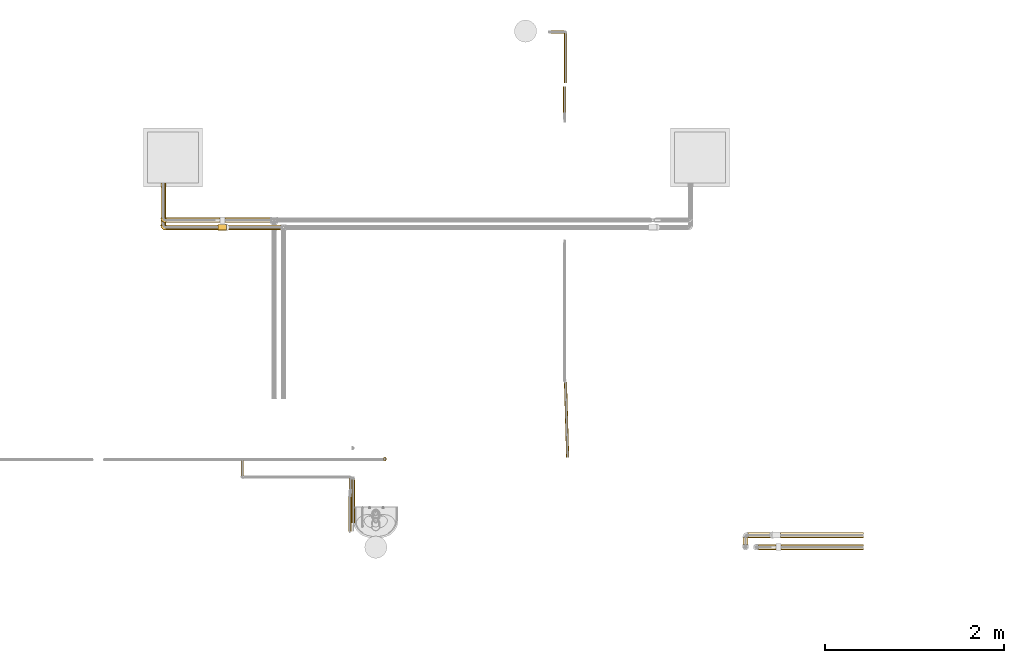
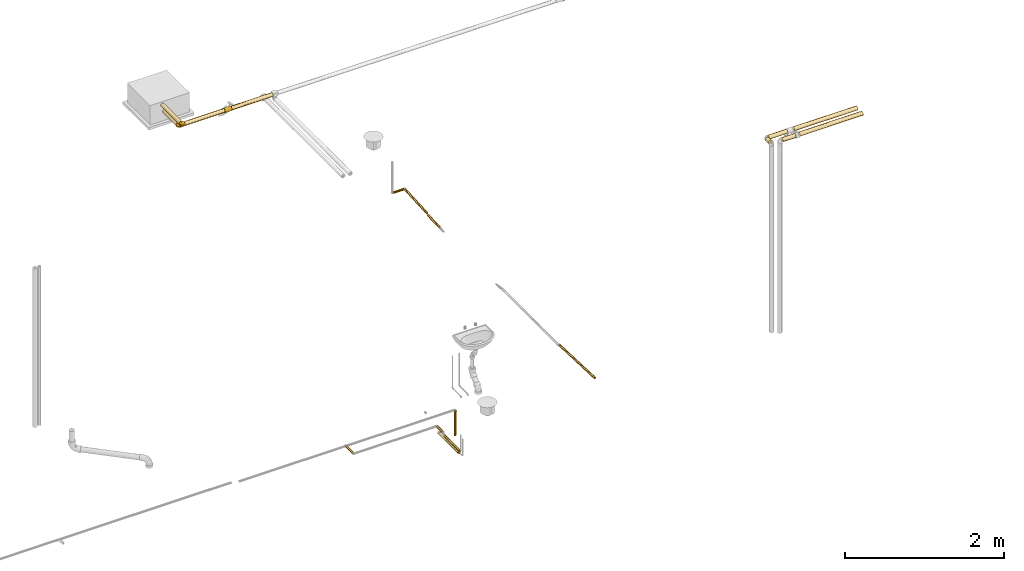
# One storey, part 4 of 108: 23 coverings.
"""IFC2X3 building model written with IfcOpenShell, lengths in millimetres."""

from ifc_helpers import new_model, entity, si_unit, converted_unit, derived_unit, direction, frame, origin_with_axes, origin_2d_with_axis, place, context, subcontext, project, spatial, hollow_circle, extrude, open_shell, surface_model, source, transform, mapped, element, save


model = new_model("IFC2X3")

# Units and contexts
model_context = context("Model", 3, precision=0.01, world=frame((0.0, 4.29681676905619e-09, 0.0)), true_north=direction((4.01073788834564e-13, 1.0)))
plan_context = context("Plan", 3, precision=0.01, world=frame((0.0, 4.29681676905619e-09, 0.0)), true_north=direction((4.01073788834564e-13, 1.0)))
body_context = subcontext(model_context, "Body", "Model", "MODEL_VIEW")
ifc_project = project(units=[converted_unit("PLANEANGLEUNIT", "DEGREE", entity("IfcPositiveLengthMeasure", 0.0174532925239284), si_unit("PLANEANGLEUNIT", "RADIAN"), dimensions=[0, 0, 0, 0, 0, 0, 0]), si_unit("AREAUNIT", "SQUARE_METRE"), si_unit("LENGTHUNIT", "METRE", prefix="MILLI"), si_unit("MASSUNIT", "GRAM", prefix="KILO"), si_unit("POWERUNIT", "WATT"), si_unit("PRESSUREUNIT", "PASCAL", prefix="KILO"), si_unit("FORCEUNIT", "NEWTON", prefix="KILO"), si_unit("ELECTRICVOLTAGEUNIT", "VOLT"), si_unit("ELECTRICCURRENTUNIT", "AMPERE"), si_unit("THERMODYNAMICTEMPERATUREUNIT", "DEGREE_CELSIUS"), si_unit("TIMEUNIT", "SECOND"), si_unit("VOLUMEUNIT", "CUBIC_METRE"), derived_unit("LINEARVELOCITYUNIT", [(si_unit("LENGTHUNIT", "METRE"), 1), (si_unit("TIMEUNIT", "SECOND"), -1)]), derived_unit("VOLUMETRICFLOWRATEUNIT", [(si_unit("VOLUMEUNIT", "CUBIC_METRE"), 1), (si_unit("TIMEUNIT", "SECOND"), -1)]), derived_unit("THERMALTRANSMITTANCEUNIT", [(si_unit("POWERUNIT", "WATT"), 1), (si_unit("THERMODYNAMICTEMPERATUREUNIT", "KELVIN"), -1), (si_unit("AREAUNIT", "SQUARE_METRE"), -1)]), derived_unit("SOUNDPRESSUREUNIT", [(si_unit("PRESSUREUNIT", "PASCAL"), 1)])], contexts=[model_context, plan_context])

# Site, building, storey
site_placement = place(None, frame((0.0, -4.29681676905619e-09, 0.0), z_axis=(0.0, 0.0, 1.0), x_axis=(1.0, 0.0, 0.0)))
site = spatial("IfcSite", under=ifc_project, at=site_placement, CompositionType="ELEMENT")
building_placement = place(site_placement, frame((0.0, 4.29681676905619e-09, 0.0), z_axis=(0.0, 0.0, 1.0), x_axis=(1.0, 0.0, 0.0)))
building = spatial("IfcBuilding", under=site, at=building_placement, Name="mc-building", CompositionType="ELEMENT")
storey_placement = place(building_placement, frame((0.0, 0.0, 210200.0), z_axis=(0.0, 0.0, 1.0), x_axis=(1.0, 0.0, 0.0)))
storey = spatial("IfcBuildingStorey", under=building, at=storey_placement, Name="Nivå F - 0,7 m", CompositionType="ELEMENT", Elevation=210200.0)

# Coverings
shared_shape_1 = source(origin_with_axes(), body_context, "Body", "SweptSolid", [
    extrude(hollow_circle(Radius=28.0, WallThickness=18.0, at=origin_2d_with_axis()), frame((0.0, 0.0, 0.0), z_axis=(1.0, 0.0, 0.0), x_axis=(0.0, 1.0, 0.0)), (0.0, 0.0, 1.0), 343.2),
])
covering_1_placement = place(storey_placement, frame((337032.18344, 464010.27358, 2880.0), z_axis=(0.0, 0.0, 1.0), x_axis=(0.0, 1.0, 0.0)))
element("IfcCovering", 1, at=covering_1_placement, inside=storey, Name="BI10T - Cellegummi 18-32 mm kalde rør", PredefinedType="INSULATION", context=body_context, shape_type="MappedRepresentation", body=[
    mapped(shared_shape_1, transform((0.0, 0.0, 0.0), scale=1.0)),
])
shared_shape_2 = source(origin_with_axes(), body_context, "Body", "SweptSolid", [
    extrude(hollow_circle(Radius=28.0, WallThickness=18.0, at=origin_2d_with_axis()), frame((0.0, 0.0, 0.0), z_axis=(1.0, 0.0, 0.0), x_axis=(0.0, 1.0, 0.0)), (0.0, 0.0, 1.0), 507.4),
])
covering_2_placement = place(storey_placement, frame((337723.87202, 463983.47358, 2880.0), z_axis=(0.0, 0.0, 1.0), x_axis=(1.0, 0.0, 0.0)))
element("IfcCovering", 2, at=covering_2_placement, inside=storey, Name="BI10T - Cellegummi 18-32 mm kalde rør", PredefinedType="INSULATION", context=body_context, shape_type="MappedRepresentation", body=[
    mapped(shared_shape_2, transform((0.0, 0.0, 0.0), scale=1.0)),
])
shared_shape_3 = source(origin_with_axes(), body_context, "Body", "SurfaceModel", [
    surface_model("IfcShellBasedSurfaceModel", [(-7.87022, 26.8, 30.39769), (0.0, 26.8, 31.4), (-15.23148, 26.8, 27.45837), (6.99065, 26.8, 30.61194), (13.6289, 26.8, 28.28804), (-26.63504, 26.8, -16.62933), (-21.62222, 26.8, 22.76927), (24.54569, 26.8, -19.58237), (19.57301, 26.8, -24.55315), (13.61941, 26.8, -28.29261), (-15.22502, 26.8, -27.46195), (-21.61679, 26.8, -22.77443), (-7.86298, 26.8, -30.39957), (0.0, 26.8, -31.4), (6.98317, 26.8, -30.61365), (-26.8, 26.63504, -16.62933), (-26.8, 21.62083, -22.77059), (-26.8, 15.22825, -27.46016), (-26.8, 7.86482, -30.39909), (-26.8, 0.0, -31.4), (-26.8, 26.63504, 16.62933), (-26.8, 0.0, 31.4), (-26.8, 21.62083, 22.77059), (-26.8, 7.86482, 30.39909), (-26.8, 15.22825, 27.46016), (-26.8, -8.12692, -30.33007), (-26.8, -15.7, -27.1932), (-26.8, -30.33007, -8.12692), (-26.8, -27.1932, -15.7), (-26.8, -22.20315, -22.20315), (-26.8, -31.4, 0.0), (-26.8, -22.20315, 22.20315), (-26.8, -15.7, 27.1932), (-26.8, -8.12692, 30.33007), (-26.8, -30.33007, 8.12692), (-26.8, -27.1932, 15.7), (-26.68336, 26.68336, 16.62933), (-26.68336, 26.68336, -16.62933), (-26.63504, 26.8, 16.62933), (-20.98338, 20.98209, -25.31794), (-15.53682, 19.99394, -28.28261), (-20.29306, 14.65966, -28.57075), (-13.68199, 13.68199, -30.29728), (-13.4, 3.59052, -31.4), (-24.81877, 23.57843, -21.35728), (-23.9708, 25.32448, -20.70189), (-3.59052, 13.4, -31.4), (21.01064, -4.28263, -8.50513), (27.85021, 12.71364, -10.37505), (26.96979, 4.52782, 0.0), (-17.53236, -4.99583, -30.75762), (-11.01672, -2.51353, -30.72144), (-3.12198, -11.94459, -25.2931), (-6.82273, -20.89661, -19.11511), (-14.9163, -17.55059, -24.9113), (-11.94566, -9.06155, -29.00982), (-20.05963, -11.42655, -29.00982), (13.04245, 9.33765, -26.59004), (15.90764, 18.52889, -26.59004), (20.64838, 14.57113, -22.20739), (-8.49526, 8.49526, -31.4), (-2.1777, 4.82876, -30.78183), (-1.37231, 21.67848, -31.4), (18.8999, -3.45798, -14.19353), (-9.95855, -28.34424, -5.80541), (-12.28416, -27.08902, -12.01626), (30.61194, 26.8, -6.99065), (29.14235, 15.45001, 0.0), (-17.70901, -24.10591, -19.11511), (11.19472, -10.994, -16.37704), (15.69471, -2.3705, -19.33199), (3.92402, 8.13201, -30.03703), (9.19037, 17.52431, -29.63944), (28.28804, 26.8, -13.6289), (25.61026, 16.65004, -16.71073), (4.60724, -3.31916, -26.58119), (-2.12413, -1.85447, -29.40457), (18.41545, 5.80905, -21.32233), (22.09401, 5.3703, -16.71073), (14.33363, -12.18809, -9.66691), (-2.58099, -23.25739, -12.49127), (0.37251, -23.7646, -7.02892), (6.44521, -18.38099, -11.30514), (9.81792, -17.81907, -5.46272), (14.35361, -14.35361, 0.0), (20.6617, -4.9129, 0.0), (-15.45001, -29.14235, 0.0), (2.68782, -15.28972, -19.52493), (8.11745, -7.57536, -22.20739), (-21.67848, 1.37231, -31.4), (12.3209, 1.00206, -24.15586), (8.23919, 3.39793, -27.4004), (31.4, 26.8, 0.0), (-4.52782, -26.96979, 0.0), (4.9129, -20.6617, 0.0), (-16.70169, -10.67968, 29.00982), (-9.96828, -28.3124, 5.97969), (8.84436, -16.89683, 10.50422), (21.02303, -4.26539, 8.5016), (20.65743, 14.57231, 22.19892), (25.61706, 16.6537, 16.7012), (24.55315, 26.8, 19.57301), (-9.05385, -15.54703, 24.9113), (-13.76902, -23.2425, 19.11511), (0.34475, -17.81223, 18.43111), (13.05424, 9.34082, 26.58405), (15.91783, 18.53136, 26.58405), (9.1991, 17.52373, 29.63644), (15.01213, -7.31228, 15.75383), (-14.20524, -3.60644, 30.79947), (-13.4, 3.59052, 31.4), (-20.1, 1.79526, 31.4), (-1.37231, 21.67848, 31.4), (-16.865, -28.61257, 10.76741), (-18.72321, -18.39914, 24.9113), (1.94012, -23.19265, 5.77128), (27.85447, 12.71812, 10.36645), (0.58014, -8.0947, 26.03466), (-9.97946, -7.68007, 29.193), (22.1034, 5.37679, 16.7012), (19.58237, 26.8, 24.54569), (28.29261, 26.8, 13.61941), (30.61365, 26.8, 6.98317), (-8.90885, -0.30109, 30.88309), (-2.9944, 3.369, 30.69802), (-3.59052, 13.4, 31.4), (-8.49526, 8.49526, 31.4), (16.45957, 3.77155, 22.19916), (3.92635, 8.12106, 30.03469), (-20.62637, -5.33624, 30.83614), (8.13659, -7.56798, 22.19892), (6.32115, -0.14196, 27.07957), (-6.5724, -25.21519, 12.01626), (1.04359, -13.09156, 22.55297), (-3.99576, -3.53267, 29.35415), (-25.32462, 23.97157, 20.70103), (-23.57831, 24.81837, 21.35761), (-13.6818, 13.68181, 30.29735), (-19.99475, 15.53567, 28.28289), (-20.98316, 20.98231, 25.31794), (-14.66031, 20.29357, 28.57039)], [open_shell([[[0, 1, 2]], [[1, 3, 4]], [[2, 5, 6]], [[7, 8, 9]], [[5, 10, 11]], [[10, 5, 12]], [[5, 13, 12]], [[13, 5, 14]], [[5, 9, 14]], [[15, 16, 17]], [[17, 18, 19]], [[15, 17, 20]], [[21, 17, 19]], [[22, 20, 21]], [[22, 23, 24]], [[23, 22, 21]], [[20, 17, 21]], [[19, 25, 21]], [[25, 26, 27]], [[28, 27, 26]], [[28, 26, 29]], [[25, 27, 30]], [[25, 31, 32]], [[33, 21, 32]], [[31, 34, 35]], [[34, 31, 30]], [[30, 31, 25]], [[32, 21, 25]], [[15, 20, 36]], [[37, 15, 36]], [[38, 5, 36]], [[37, 36, 5]], [[39, 40, 41]], [[18, 41, 42]], [[41, 40, 42]], [[16, 39, 17]], [[19, 18, 43]], [[43, 18, 42]], [[12, 42, 40]], [[15, 37, 44]], [[39, 41, 17]], [[5, 11, 45]], [[39, 45, 11]], [[5, 45, 37]], [[40, 39, 10]], [[46, 43, 42]], [[42, 12, 46]], [[12, 13, 46]], [[10, 39, 11]], [[15, 44, 16]], [[41, 18, 17]], [[45, 44, 37]], [[39, 44, 45]], [[12, 40, 10]], [[44, 39, 16]], [[47, 48, 49]], [[50, 43, 51]], [[52, 53, 54]], [[55, 56, 50]], [[57, 58, 59]], [[60, 61, 51]], [[62, 13, 14]], [[48, 47, 63]], [[64, 27, 65]], [[48, 66, 67]], [[68, 28, 29]], [[26, 56, 54]], [[26, 54, 29]], [[28, 68, 65]], [[56, 26, 25]], [[69, 70, 63]], [[71, 46, 72]], [[62, 14, 72]], [[7, 73, 74]], [[59, 8, 7]], [[72, 46, 62]], [[72, 14, 9]], [[58, 72, 9]], [[75, 52, 76]], [[72, 57, 71]], [[77, 78, 70]], [[77, 59, 78]], [[69, 63, 79]], [[64, 80, 81]], [[48, 73, 66]], [[49, 48, 67]], [[78, 74, 48]], [[28, 65, 27]], [[74, 59, 7]], [[82, 83, 81]], [[8, 58, 9]], [[80, 82, 81]], [[84, 47, 85]], [[27, 64, 86]], [[69, 87, 88]], [[51, 61, 76]], [[52, 54, 55]], [[68, 54, 53]], [[25, 19, 89]], [[57, 90, 91]], [[71, 76, 61]], [[66, 92, 67]], [[48, 74, 73]], [[59, 74, 78]], [[59, 58, 8]], [[72, 58, 57]], [[76, 52, 55]], [[52, 88, 87]], [[51, 55, 50]], [[90, 75, 91]], [[86, 64, 93]], [[86, 30, 27]], [[83, 84, 94]], [[94, 93, 81]], [[64, 81, 93]], [[79, 83, 82]], [[94, 81, 83]], [[80, 64, 65]], [[65, 53, 80]], [[87, 80, 53]], [[69, 79, 82]], [[79, 47, 84]], [[82, 80, 87]], [[70, 69, 88]], [[82, 87, 69]], [[52, 87, 53]], [[90, 70, 88]], [[63, 70, 78]], [[75, 90, 88]], [[77, 57, 59]], [[52, 75, 88]], [[91, 76, 71]], [[48, 63, 78]], [[63, 47, 79]], [[70, 90, 77]], [[57, 77, 90]], [[76, 91, 75]], [[71, 61, 46]], [[71, 57, 91]], [[54, 68, 29]], [[65, 68, 53]], [[50, 25, 89]], [[54, 56, 55]], [[25, 50, 56]], [[43, 50, 89]], [[60, 51, 43]], [[76, 55, 51]], [[47, 49, 85]], [[84, 83, 79]], [[46, 61, 60]], [[32, 95, 33]], [[93, 96, 86]], [[97, 84, 98]], [[96, 34, 86]], [[99, 100, 101]], [[102, 103, 104]], [[105, 106, 107]], [[108, 104, 97]], [[109, 110, 111]], [[3, 112, 107]], [[113, 103, 35]], [[3, 1, 112]], [[31, 114, 32]], [[32, 114, 95]], [[4, 3, 107]], [[84, 97, 115]], [[98, 49, 116]], [[102, 117, 118]], [[119, 100, 99]], [[120, 99, 101]], [[34, 96, 113]], [[116, 121, 100]], [[116, 67, 122]], [[120, 4, 106]], [[109, 123, 110]], [[124, 125, 126]], [[127, 119, 99]], [[105, 107, 128]], [[107, 125, 128]], [[121, 116, 122]], [[35, 103, 31]], [[106, 99, 120]], [[98, 116, 119]], [[127, 99, 105]], [[98, 108, 97]], [[121, 101, 100]], [[98, 84, 85]], [[125, 107, 112]], [[95, 109, 129]], [[130, 131, 117]], [[131, 105, 128]], [[104, 103, 132]], [[114, 103, 102]], [[126, 123, 124]], [[131, 130, 127]], [[97, 104, 132]], [[133, 130, 117]], [[96, 115, 132]], [[98, 119, 108]], [[67, 116, 49]], [[67, 92, 122]], [[33, 129, 21]], [[116, 100, 119]], [[107, 106, 4]], [[99, 106, 105]], [[124, 131, 128]], [[123, 126, 110]], [[117, 131, 134]], [[34, 30, 86]], [[115, 96, 93]], [[96, 132, 113]], [[115, 93, 94]], [[132, 115, 97]], [[103, 113, 132]], [[35, 34, 113]], [[129, 109, 111]], [[118, 109, 95]], [[127, 108, 119]], [[84, 115, 94]], [[104, 108, 130]], [[21, 129, 111]], [[95, 129, 33]], [[131, 127, 105]], [[108, 127, 130]], [[118, 117, 134]], [[133, 102, 104]], [[103, 114, 31]], [[95, 114, 102]], [[102, 118, 95]], [[123, 118, 134]], [[118, 123, 109]], [[123, 134, 124]], [[131, 124, 134]], [[125, 124, 128]], [[102, 133, 117]], [[104, 130, 133]], [[85, 49, 98]], [[23, 21, 110]], [[135, 136, 36]], [[23, 137, 138]], [[23, 110, 137]], [[139, 22, 24]], [[139, 135, 22]], [[22, 135, 20]], [[137, 110, 125]], [[20, 135, 36]], [[125, 1, 0]], [[139, 140, 2]], [[0, 140, 137]], [[140, 139, 138]], [[135, 139, 136]], [[6, 136, 139]], [[38, 36, 136]], [[6, 139, 2]], [[23, 138, 24]], [[140, 0, 2]], [[140, 138, 137]], [[125, 0, 137]], [[38, 136, 6]], [[138, 139, 24]], [[4, 120, 121]], [[1, 4, 5]], [[121, 120, 101]], [[4, 121, 5]], [[2, 1, 5]], [[6, 5, 38]], [[92, 121, 122]], [[5, 92, 66]], [[73, 5, 66]], [[73, 7, 5]], [[9, 5, 7]], [[92, 5, 121]]])]),
])
for number, where, z_axis, x_axis in (
    (3, (337032.18344, 463983.47358, 2880.0), (0.0, 0.0, 1.0), (0.0, -1.0, 0.0)),
    (4, (337032.18344, 463903.47358, 2948.0), (0.0, 0.0, 1.0), (0.0, -1.0, 0.0)),
):
    element("IfcCovering", number, at=place(storey_placement, frame(where, z_axis=z_axis, x_axis=x_axis)), inside=storey, Name="BI10T - Cellegummi 18-32 mm kalde rør", PredefinedType="INSULATION", context=body_context, shape_type="MappedRepresentation", body=[
        mapped(shared_shape_3, transform((0.0, 0.0, 0.0), scale=1.0)),
    ])
shared_shape_4 = source(origin_with_axes(), body_context, "Body", "SweptSolid", [
    extrude(hollow_circle(Radius=28.0, WallThickness=18.0, at=origin_2d_with_axis()), frame((0.0, 0.0, 0.0), z_axis=(1.0, 0.0, 0.0), x_axis=(0.0, 1.0, 0.0)), (0.0, 0.0, 1.0), 468.2),
])
covering_3_placement = place(storey_placement, frame((337032.18344, 464398.47358, 2948.0), z_axis=(0.0, 0.0, 1.0), x_axis=(0.0, -1.0, 0.0)))
element("IfcCovering", 5, at=covering_3_placement, inside=storey, Name="BI10T - Cellegummi 18-32 mm kalde rør", PredefinedType="INSULATION", context=body_context, shape_type="MappedRepresentation", body=[
    mapped(shared_shape_4, transform((0.0, 0.0, 0.0), scale=1.0)),
])
shared_shape_5 = source(origin_with_axes(), body_context, "Body", "SweptSolid", [
    extrude(hollow_circle(Radius=28.0, WallThickness=18.0, at=origin_2d_with_axis()), frame((0.0, 0.0, 0.0), z_axis=(1.0, 0.0, 0.0), x_axis=(0.0, 1.0, 0.0)), (0.0, 0.0, 1.0), 603.8),
])
covering_4_placement = place(storey_placement, frame((337739.56154, 463903.47358, 2948.0), z_axis=(0.0, 0.0, 1.0), x_axis=(1.0, 0.0, 0.0)))
element("IfcCovering", 6, at=covering_4_placement, inside=storey, Name="BI10T - Cellegummi 18-32 mm kalde rør", PredefinedType="INSULATION", context=body_context, shape_type="MappedRepresentation", body=[
    mapped(shared_shape_5, transform((0.0, 0.0, 0.0), scale=1.0)),
])
shared_shape_6 = source(origin_with_axes(), body_context, "Body", "SweptSolid", [
    extrude(hollow_circle(Radius=30.0, WallThickness=20.0, at=origin_2d_with_axis()), frame((0.0, 0.0, 0.0), z_axis=(1.0, 0.0, 0.0), x_axis=(0.0, 1.0, 0.0)), (0.0, 0.0, 1.0), 921.2),
])
covering_5_placement = place(storey_placement, frame((343947.74418, 460323.91341, 2545.47687000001), z_axis=(0.0, 0.0, 1.0), x_axis=(1.0, 0.0, 0.0)))
element("IfcCovering", 7, at=covering_5_placement, inside=storey, Name="BI10T - Cellegummi 18-32 mm kalde rør", PredefinedType="INSULATION", context=body_context, shape_type="MappedRepresentation", body=[
    mapped(shared_shape_6, transform((0.0, 0.0, 0.0), scale=1.0)),
])
shared_shape_7 = source(origin_with_axes(), body_context, "Body", "SweptSolid", [
    extrude(hollow_circle(Radius=30.0, WallThickness=20.0, at=origin_2d_with_axis()), frame((0.0, 0.0, 0.0), z_axis=(1.0, 0.0, 0.0), x_axis=(0.0, 1.0, 0.0)), (0.0, 0.0, 1.0), 81.4),
])
covering_6_placement = place(storey_placement, frame((343548.98104, 460350.70882, 2545.48146000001), z_axis=(0.0, -0.000173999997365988, 0.999999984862), x_axis=(0.0, 0.999999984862, 0.000173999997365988)))
element("IfcCovering", 8, at=covering_6_placement, inside=storey, Name="BI10T - Cellegummi 18-32 mm kalde rør", PredefinedType="INSULATION", context=body_context, shape_type="MappedRepresentation", body=[
    mapped(shared_shape_7, transform((0.0, 0.0, 0.0), scale=1.0)),
])
shared_shape_8 = source(origin_with_axes(), body_context, "Body", "SweptSolid", [
    extrude(hollow_circle(Radius=30.0, WallThickness=20.0, at=origin_2d_with_axis()), frame((0.0, 0.0, 0.0), z_axis=(1.0, 0.0, 0.0), x_axis=(0.0, 1.0, 0.0)), (0.0, 0.0, 1.0), 926.0),
])
covering_7_placement = place(storey_placement, frame((343942.99418, 460458.91341, 2545.5), z_axis=(0.0, 0.0, 1.0), x_axis=(1.0, 0.0, 0.0)))
element("IfcCovering", 9, at=covering_7_placement, inside=storey, Name="BI10T - Cellegummi 18-32 mm kalde rør", PredefinedType="INSULATION", context=body_context, shape_type="MappedRepresentation", body=[
    mapped(shared_shape_8, transform((0.0, 0.0, 0.0), scale=1.0)),
])
shared_shape_9 = source(origin_with_axes(), body_context, "Body", "SweptSolid", [
    extrude(hollow_circle(Radius=30.0, WallThickness=20.0, at=origin_2d_with_axis()), frame((0.0, 0.0, 0.0), z_axis=(1.0, 0.0, 0.0), x_axis=(0.0, 1.0, 0.0)), (0.0, 0.0, 1.0), 194.0),
])
covering_8_placement = place(storey_placement, frame((343695.78104, 460323.91341, 2545.47687000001), z_axis=(0.0, 0.0, 1.0), x_axis=(1.0, 0.0, 0.0)))
element("IfcCovering", 10, at=covering_8_placement, inside=storey, Name="BI10T - Cellegummi 18-32 mm kalde rør", PredefinedType="INSULATION", context=body_context, shape_type="MappedRepresentation", body=[
    mapped(shared_shape_9, transform((0.0, 0.0, 0.0), scale=1.0)),
])
shared_shape_10 = source(origin_with_axes(), body_context, "Body", "SweptSolid", [
    extrude(hollow_circle(Radius=30.0, WallThickness=20.0, at=origin_2d_with_axis()), frame((0.0, 0.0, 0.0), z_axis=(1.0, 0.0, 0.0), x_axis=(0.0, 1.0, 0.0)), (0.0, 0.0, 1.0), 270.2),
])
covering_9_placement = place(storey_placement, frame((343575.78104, 460458.91341, 2545.5), z_axis=(0.0, 0.0, 1.0), x_axis=(1.0, 0.0, 0.0)))
element("IfcCovering", 11, at=covering_9_placement, inside=storey, Name="BI10T - Cellegummi 18-32 mm kalde rør", PredefinedType="INSULATION", context=body_context, shape_type="MappedRepresentation", body=[
    mapped(shared_shape_10, transform((0.0, 0.0, 0.0), scale=1.0)),
])
shared_shape_11 = source(origin_with_axes(), body_context, "Body", "SweptSolid", [
    extrude(hollow_circle(Radius=28.0, WallThickness=18.0, at=origin_2d_with_axis()), frame((0.0, 0.0, 0.0), z_axis=(1.0, 0.0, 0.0), x_axis=(0.0, 1.0, 0.0)), (0.0, 0.0, 1.0), 606.9),
])
covering_10_placement = place(storey_placement, frame((337058.98344, 463983.47358, 2880.0), z_axis=(0.0, 0.0, 1.0), x_axis=(1.0, 0.0, 0.0)))
element("IfcCovering", 12, at=covering_10_placement, inside=storey, Name="BI10T - Cellegummi 18-32 mm kalde rør", PredefinedType="INSULATION", context=body_context, shape_type="MappedRepresentation", body=[
    mapped(shared_shape_11, transform((0.0, 0.0, 0.0), scale=1.0)),
])
shared_shape_12 = source(origin_with_axes(), body_context, "Body", "SweptSolid", [
    extrude(hollow_circle(Radius=28.0, WallThickness=18.0, at=origin_2d_with_axis()), frame((0.0, 0.0, 0.0), z_axis=(1.0, 0.0, 0.0), x_axis=(0.0, 1.0, 0.0)), (0.0, 0.0, 1.0), 583.6),
])
covering_11_placement = place(storey_placement, frame((337058.98344, 463903.47358, 2948.0), z_axis=(0.0, 0.0, 1.0), x_axis=(1.0, 0.0, 0.0)))
element("IfcCovering", 13, at=covering_11_placement, inside=storey, Name="BI10T - Cellegummi 18-32 mm kalde rør", PredefinedType="INSULATION", context=body_context, shape_type="MappedRepresentation", body=[
    mapped(shared_shape_12, transform((0.0, 0.0, 0.0), scale=1.0)),
])
shared_shape_13 = source(origin_with_axes(), body_context, "Body", "SurfaceModel", [
    surface_model("IfcShellBasedSurfaceModel", [(48.5, 31.73066, -8.50221), (48.5, 8.50221, -31.73066), (48.5, 16.425, -28.44894), (48.5, 23.22846, -23.22846), (48.5, -23.22846, -23.22846), (48.5, -28.44894, 16.425), (48.5, 28.44894, -16.425), (48.5, -8.50221, -31.73066), (48.5, -16.425, -28.44894), (48.5, 0.0, -32.85), (48.5, -31.73066, -8.50221), (48.5, -28.44894, -16.425), (48.5, 32.85, 0.0), (48.5, 31.73066, 8.50221), (48.5, 28.44894, 16.425), (48.5, 23.22846, 23.22846), (48.5, -8.50221, 31.73066), (48.5, 8.50221, 31.73066), (48.5, 0.0, 32.85), (48.5, 16.425, 28.44894), (48.5, -32.85, 0.0), (48.5, -31.73066, 8.50221), (48.5, -23.22846, 23.22846), (48.5, -16.425, 28.44894), (-48.5, 23.22846, 23.22846), (-48.5, 0.0, 32.85), (-48.5, 8.50221, 31.73066), (-48.5, 16.425, 28.44894), (-48.5, 28.44894, 16.425), (-48.5, 31.73066, 8.50221), (-48.5, -8.50221, 31.73066), (-48.5, -23.22846, 23.22846), (-48.5, -16.425, 28.44894), (-48.5, -28.44894, 16.425), (-48.5, -32.85, 0.0), (-48.5, -31.73066, 8.50221), (-48.5, -31.73066, -8.50221), (-48.5, 31.73066, -8.50221), (-48.5, -23.22846, -23.22846), (-48.5, 23.22846, -23.22846), (-48.5, 28.44894, -16.425), (-48.5, 16.425, -28.44894), (-48.5, 8.50221, -31.73066), (-48.5, 0.0, -32.85), (-48.5, -28.44894, -16.425), (-48.5, -8.50221, -31.73066), (-48.5, -16.425, -28.44894), (-48.5, 32.85, 0.0)], [open_shell([[[0, 1, 2]], [[0, 2, 3]], [[4, 1, 5]], [[0, 3, 6]], [[1, 0, 5]], [[7, 4, 8]], [[4, 7, 9]], [[4, 10, 11]], [[4, 9, 1]], [[4, 5, 10]], [[0, 12, 13]], [[13, 14, 15]], [[16, 13, 15]], [[17, 18, 15]], [[17, 15, 19]], [[16, 15, 18]], [[20, 5, 21]], [[10, 5, 20]], [[22, 16, 23]], [[22, 5, 13]], [[16, 22, 13]], [[5, 0, 13]], [[24, 25, 26]], [[24, 26, 27]], [[24, 28, 29]], [[25, 24, 30]], [[30, 24, 29]], [[30, 31, 32]], [[30, 29, 31]], [[33, 34, 35]], [[31, 29, 33]], [[33, 36, 34]], [[33, 29, 37]], [[33, 37, 38]], [[39, 37, 40]], [[41, 42, 37]], [[41, 37, 39]], [[43, 37, 42]], [[36, 38, 44]], [[33, 38, 36]], [[38, 45, 46]], [[45, 38, 43]], [[37, 43, 38]], [[37, 29, 47]], [[13, 29, 28]], [[14, 28, 24]], [[47, 29, 12]], [[12, 29, 13]], [[28, 14, 13]], [[24, 15, 14]], [[19, 27, 26]], [[17, 26, 25]], [[15, 27, 19]], [[19, 26, 17]], [[25, 18, 17]], [[27, 15, 24]], [[16, 30, 32]], [[23, 32, 31]], [[25, 30, 18]], [[18, 30, 16]], [[32, 23, 16]], [[31, 22, 23]], [[5, 33, 35]], [[21, 35, 34]], [[22, 33, 5]], [[5, 35, 21]], [[34, 20, 21]], [[33, 22, 31]], [[10, 36, 44]], [[11, 44, 38]], [[34, 36, 20]], [[20, 36, 10]], [[44, 11, 10]], [[38, 4, 11]], [[8, 46, 45]], [[7, 45, 43]], [[4, 46, 8]], [[8, 45, 7]], [[43, 9, 7]], [[46, 4, 38]], [[1, 42, 41]], [[2, 41, 39]], [[43, 42, 9]], [[9, 42, 1]], [[41, 2, 1]], [[39, 3, 2]], [[6, 40, 37]], [[0, 37, 47]], [[3, 40, 6]], [[6, 37, 0]], [[47, 12, 0]], [[40, 3, 39]]])]),
])
covering_12_placement = place(storey_placement, frame((337691.06154, 463903.47358, 2948.0), z_axis=(0.0, 0.0, -1.0), x_axis=(1.0, 0.0, 0.0)))
element("IfcCovering", 14, at=covering_12_placement, inside=storey, Name="BI10T - Cellegummi 18-32 mm kalde rør", PredefinedType="INSULATION", context=body_context, shape_type="MappedRepresentation", body=[
    mapped(shared_shape_13, transform((0.0, 0.0, 0.0), scale=1.0)),
])
shared_shape_14 = source(origin_with_axes(), body_context, "Body", "SweptSolid", [
    extrude(hollow_circle(Radius=16.0, WallThickness=10.0, at=origin_2d_with_axis()), frame((0.0, 0.0, 0.0), z_axis=(1.0, 0.0, 0.0), x_axis=(0.0, 1.0, 0.0)), (0.0, 0.0, 1.0), 391.2),
])
covering_13_placement = place(storey_placement, frame((339511.94555, 461303.55425, -747.831479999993), z_axis=(1.0, 0.0, 0.0), x_axis=(0.0, 0.0301099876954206, -0.999546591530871)))
element("IfcCovering", 15, at=covering_13_placement, inside=storey, Name="BI10T - Cellegummi 18-32 mm kalde rør", PredefinedType="INSULATION", context=body_context, shape_type="MappedRepresentation", body=[
    mapped(shared_shape_14, transform((0.0, 0.0, 0.0), scale=1.0)),
])
shared_shape_15 = source(origin_with_axes(), body_context, "Body", "SweptSolid", [
    extrude(hollow_circle(Radius=16.0, WallThickness=10.0, at=origin_2d_with_axis()), frame((0.0, 0.0, 0.0), z_axis=(1.0, 0.0, 0.0), x_axis=(0.0, 1.0, 0.0)), (0.0, 0.0, 1.0), 175.2),
])
covering_14_placement = place(storey_placement, frame((337914.44674, 461294.19294, -735.809999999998), z_axis=(0.0, 0.0, 1.0), x_axis=(0.0, -1.0, 0.0)))
element("IfcCovering", 16, at=covering_14_placement, inside=storey, Name="BI10T - Cellegummi 18-32 mm kalde rør", PredefinedType="INSULATION", context=body_context, shape_type="MappedRepresentation", body=[
    mapped(shared_shape_15, transform((0.0, 0.0, 0.0), scale=1.0)),
])
shared_shape_16 = source(origin_with_axes(), body_context, "Body", "SweptSolid", [
    extrude(hollow_circle(Radius=16.0, WallThickness=10.0, at=origin_2d_with_axis()), frame((0.0, 0.0, 0.0), z_axis=(1.0, 0.0, 0.0), x_axis=(0.0, 1.0, 0.0)), (0.0, 0.0, 1.0), 387.4),
])
covering_15_placement = place(storey_placement, frame((339119.44674, 460500.75941, -750.773129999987), z_axis=(0.0, 0.0, 1.0), x_axis=(0.0, 1.0, 0.0)))
element("IfcCovering", 17, at=covering_15_placement, inside=storey, Name="BI10T - Cellegummi 18-32 mm kalde rør", PredefinedType="INSULATION", context=body_context, shape_type="MappedRepresentation", body=[
    mapped(shared_shape_16, transform((0.0, 0.0, 0.0), scale=1.0)),
])
shared_shape_17 = source(origin_with_axes(), body_context, "Body", "SweptSolid", [
    extrude(hollow_circle(Radius=16.0, WallThickness=10.0, at=origin_2d_with_axis()), frame((0.0, 0.0, 0.0), z_axis=(1.0, 0.0, 0.0), x_axis=(0.0, 1.0, 0.0)), (0.0, 0.0, 1.0), 125.7),
])
covering_16_placement = place(storey_placement, frame((339126.94674, 461095.00941, -735.809999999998), z_axis=(0.0, 0.0, 1.0), x_axis=(0.0, -1.0, 0.0)))
element("IfcCovering", 18, at=covering_16_placement, inside=storey, Name="BI10T - Cellegummi 18-32 mm kalde rør", PredefinedType="INSULATION", context=body_context, shape_type="MappedRepresentation", body=[
    mapped(shared_shape_17, transform((0.0, 0.0, 0.0), scale=1.0)),
])
shared_shape_18 = source(origin_with_axes(), body_context, "Body", "SweptSolid", [
    extrude(hollow_circle(Radius=16.0, WallThickness=10.0, at=origin_2d_with_axis()), frame((0.0, 0.0, 0.0), z_axis=(1.0, 0.0, 0.0), x_axis=(0.0, 1.0, 0.0)), (0.0, 0.0, 1.0), 558.0),
])
covering_17_placement = place(storey_placement, frame((341534.44567, 466078.77772, -948.735719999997), z_axis=(0.0, -0.0552160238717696, 0.998474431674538), x_axis=(0.0, -0.998474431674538, -0.0552160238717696)))
element("IfcCovering", 19, at=covering_17_placement, inside=storey, Name="BI10T - Cellegummi 18-32 mm kalde rør", PredefinedType="INSULATION", context=body_context, shape_type="MappedRepresentation", body=[
    mapped(shared_shape_18, transform((0.0, 0.0, 0.0), scale=1.0)),
])
shared_shape_19 = source(origin_with_axes(), body_context, "Body", "SweptSolid", [
    extrude(hollow_circle(Radius=16.0, WallThickness=10.0, at=origin_2d_with_axis()), frame((0.0, 0.0, 0.0), z_axis=(1.0, 0.0, 0.0), x_axis=(0.0, 1.0, 0.0)), (0.0, 0.0, 1.0), 156.0),
])
covering_18_placement = place(storey_placement, frame((341366.44567, 466090.75941, -948.073130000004), z_axis=(0.0, 0.0, 1.0), x_axis=(1.0, 0.0, 0.0)))
element("IfcCovering", 20, at=covering_18_placement, inside=storey, Name="BI10T - Cellegummi 18-32 mm kalde rør", PredefinedType="INSULATION", context=body_context, shape_type="MappedRepresentation", body=[
    mapped(shared_shape_19, transform((0.0, 0.0, 0.0), scale=1.0)),
])
shared_shape_20 = source(origin_with_axes(), body_context, "Body", "SweptSolid", [
    extrude(hollow_circle(Radius=16.0, WallThickness=10.0, at=origin_2d_with_axis()), frame((0.0, 0.0, 0.0), z_axis=(1.0, 0.0, 0.0), x_axis=(0.0, 1.0, 0.0)), (0.0, 0.0, 1.0), 846.8),
])
covering_19_placement = place(storey_placement, frame((341557.8554, 461327.68812, -981.678400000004), z_axis=(0.0, 0.0, 1.0), x_axis=(-0.0286059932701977, 0.999590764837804, 0.0)))
element("IfcCovering", 21, at=covering_19_placement, inside=storey, Name="BI10T - Cellegummi 18-32 mm kalde rør", PredefinedType="INSULATION", context=body_context, shape_type="MappedRepresentation", body=[
    mapped(shared_shape_20, transform((0.0, 0.0, 0.0), scale=1.0)),
])
shared_shape_21 = source(origin_with_axes(), body_context, "Body", "SweptSolid", [
    extrude(hollow_circle(Radius=16.0, WallThickness=10.0, at=origin_2d_with_axis()), frame((0.0, 0.0, 0.0), z_axis=(1.0, 0.0, 0.0), x_axis=(0.0, 1.0, 0.0)), (0.0, 0.0, 1.0), 290.6),
])
covering_20_placement = place(storey_placement, frame((341524.45116, 465479.50939, -979.728839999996), z_axis=(0.990314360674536, 0.00497800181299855, -0.138754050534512), x_axis=(1.88890670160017e-07, -0.999357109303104, -0.0358520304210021)))
element("IfcCovering", 22, at=covering_20_placement, inside=storey, Name="BI10T - Cellegummi 18-32 mm kalde rør", PredefinedType="INSULATION", context=body_context, shape_type="MappedRepresentation", body=[
    mapped(shared_shape_21, transform((0.0, 0.0, 0.0), scale=1.0)),
])
shared_shape_22 = source(origin_with_axes(), body_context, "Body", "SweptSolid", [
    extrude(hollow_circle(Radius=21.0, WallThickness=15.0, at=origin_2d_with_axis()), frame((0.0, 0.0, 0.0), z_axis=(1.0, 0.0, 0.0), x_axis=(0.0, 1.0, 0.0)), (0.0, 0.0, 1.0), 487.9),
])
covering_21_placement = place(storey_placement, frame((339156.94674, 461081.74147, -840.773129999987), z_axis=(0.0, 0.0, 1.0), x_axis=(0.0, -1.0, 0.0)))
element("IfcCovering", 23, at=covering_21_placement, inside=storey, Name="BI10T - Cellegummi 18-32 mm kalde rør", PredefinedType="INSULATION", context=body_context, shape_type="MappedRepresentation", body=[
    mapped(shared_shape_22, transform((0.0, 0.0, 0.0), scale=1.0)),
])

save(model, "model.ifc")
